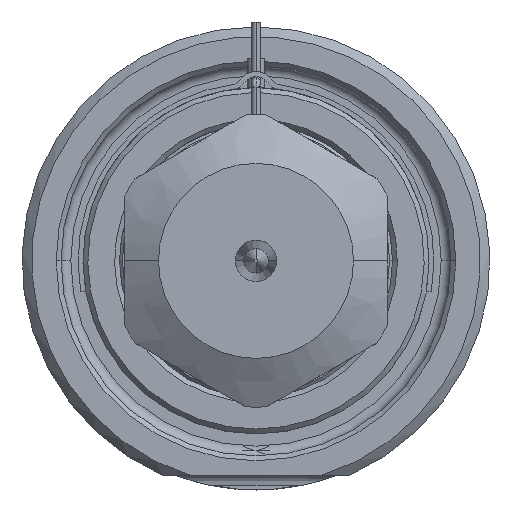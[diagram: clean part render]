
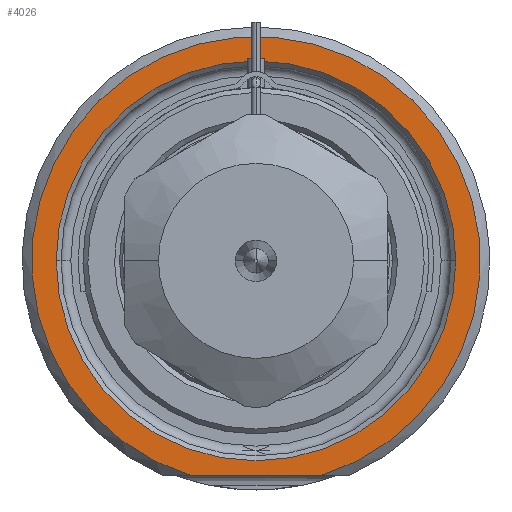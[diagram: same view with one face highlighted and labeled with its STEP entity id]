
A CAD part, front view. The second image highlights one B-rep face of the part: STEP entity #4026.
In plain terms, the highlighted planar face has unit normal (0, -1, 0).
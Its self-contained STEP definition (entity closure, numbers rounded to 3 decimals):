
#1=DIRECTION('',(1.,0.,0.));
#2=VECTOR('',#1,13.416);
#3=CARTESIAN_POINT('',(-6.708,0.,-22.));
#4=LINE('',#3,#2);
#5=CARTESIAN_POINT('',(0.,0.,0.));
#6=DIRECTION('',(0.,1.,0.));
#7=DIRECTION('',(-1.,0.,0.));
#8=AXIS2_PLACEMENT_3D('',#5,#6,#7);
#10=CARTESIAN_POINT('',(0.,0.,0.));
#11=DIRECTION('',(0.,1.,0.));
#12=DIRECTION('',(1.,0.,0.));
#13=AXIS2_PLACEMENT_3D('',#10,#11,#12);
#121=CARTESIAN_POINT('',(0.,0.,0.));
#122=DIRECTION('',(0.,-1.,0.));
#123=DIRECTION('',(0.292,0.,-0.957));
#124=AXIS2_PLACEMENT_3D('',#121,#122,#123);
#3396=CARTESIAN_POINT('',(-20.5,0.,0.));
#3397=CARTESIAN_POINT('',(20.5,0.,0.));
#3398=VERTEX_POINT('',#3396);
#3399=VERTEX_POINT('',#3397);
#3450=CARTESIAN_POINT('',(-6.708,0.,-22.));
#3451=CARTESIAN_POINT('',(6.708,0.,-22.));
#3452=VERTEX_POINT('',#3450);
#3453=VERTEX_POINT('',#3451);
#4009=CARTESIAN_POINT('',(0.,0.,0.));
#4010=DIRECTION('',(0.,-1.,0.));
#4011=DIRECTION('',(1.,0.,0.));
#4012=AXIS2_PLACEMENT_3D('',#4009,#4010,#4011);
#4013=PLANE('',#4012);
#4015=ORIENTED_EDGE('',*,*,#4014,.F.);
#4017=ORIENTED_EDGE('',*,*,#4016,.F.);
#4018=EDGE_LOOP('',(#4015,#4017));
#4019=FACE_OUTER_BOUND('',#4018,.F.);
#4021=ORIENTED_EDGE('',*,*,#4020,.F.);
#4023=ORIENTED_EDGE('',*,*,#4022,.F.);
#4024=EDGE_LOOP('',(#4021,#4023));
#4025=FACE_BOUND('',#4024,.F.);
#4026=ADVANCED_FACE('',(#4019,#4025),#4013,.T.);
#9=CIRCLE('',#8,20.5);
#14=CIRCLE('',#13,20.5);
#125=CIRCLE('',#124,23.);
#4014=EDGE_CURVE('',#3452,#3453,#4,.T.);
#4016=EDGE_CURVE('',#3453,#3452,#125,.T.);
#4020=EDGE_CURVE('',#3398,#3399,#9,.T.);
#4022=EDGE_CURVE('',#3399,#3398,#14,.T.);
